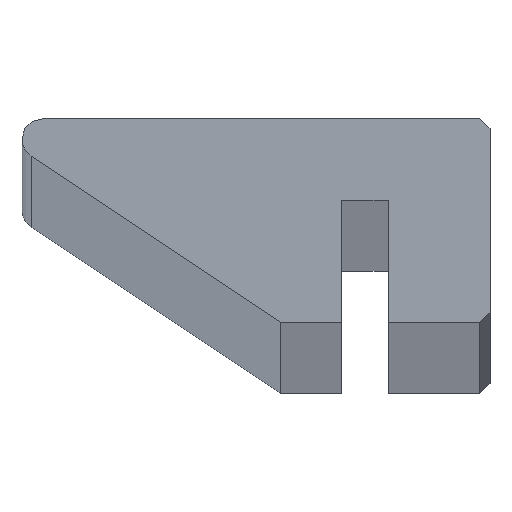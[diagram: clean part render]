
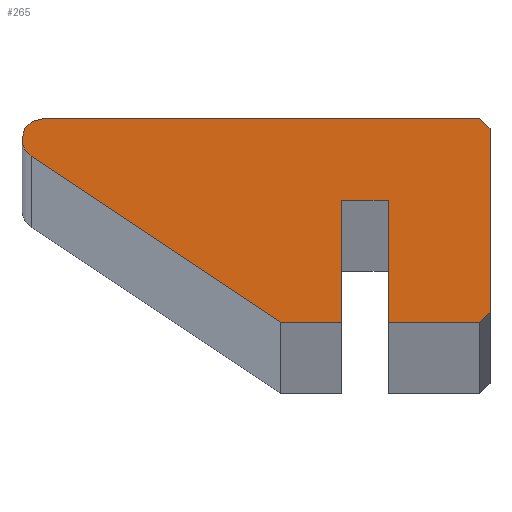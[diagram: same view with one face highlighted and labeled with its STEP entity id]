
A CAD part, top view. The second image highlights one B-rep face of the part: STEP entity #265.
In plain terms, the highlighted planar face has unit normal (0, 0, 1).
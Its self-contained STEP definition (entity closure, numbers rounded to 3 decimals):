
#5 = EDGE_CURVE ( 'NONE', #424, #30, #466, .T. ) ;
#7 = DIRECTION ( 'NONE',  ( 0., 0., 1. ) ) ;
#15 = CARTESIAN_POINT ( 'NONE',  ( -7.3, 6., 2000. ) ) ;
#21 = CARTESIAN_POINT ( 'NONE',  ( -22., 10., 2000. ) ) ;
#24 = DIRECTION ( 'NONE',  ( 0.707, 0.707, 0. ) ) ;
#25 = LINE ( 'NONE', #103, #82 ) ;
#30 = VERTEX_POINT ( 'NONE', #41 ) ;
#31 = EDGE_CURVE ( 'NONE', #106, #202, #469, .T. ) ;
#41 = CARTESIAN_POINT ( 'NONE',  ( -5., 0., 2000. ) ) ;
#54 = DIRECTION ( 'NONE',  ( 0., 0., 1. ) ) ;
#60 = FACE_OUTER_BOUND ( 'NONE', #277, .T. ) ;
#65 = VECTOR ( 'NONE', #95, 1000. ) ;
#66 = VECTOR ( 'NONE', #24, 1000. ) ;
#68 = DIRECTION ( 'NONE',  ( 0., 0., 1. ) ) ;
#69 = DIRECTION ( 'NONE',  ( 0., 1., 0. ) ) ;
#80 = EDGE_CURVE ( 'NONE', #165, #451, #146, .T. ) ;
#82 = VECTOR ( 'NONE', #220, 1000. ) ;
#95 = DIRECTION ( 'NONE',  ( 1., 0., 0. ) ) ;
#97 = VERTEX_POINT ( 'NONE', #374 ) ;
#101 = VERTEX_POINT ( 'NONE', #235 ) ;
#103 = CARTESIAN_POINT ( 'NONE',  ( -22.555, 8.168, 2000. ) ) ;
#106 = VERTEX_POINT ( 'NONE', #403 ) ;
#111 = EDGE_CURVE ( 'NONE', #213, #467, #407, .T. ) ;
#114 = CARTESIAN_POINT ( 'NONE',  ( 0., 10., 2000. ) ) ;
#117 = CIRCLE ( 'NONE', #185, 1. ) ;
#120 = CARTESIAN_POINT ( 'NONE',  ( -7.3, 6., 2000. ) ) ;
#123 = ORIENTED_EDGE ( 'NONE', *, *, #375, .T. ) ;
#140 = VECTOR ( 'NONE', #69, 1000. ) ;
#146 = LINE ( 'NONE', #434, #140 ) ;
#153 = CARTESIAN_POINT ( 'NONE',  ( 0., 9.5, 2000. ) ) ;
#165 = VERTEX_POINT ( 'NONE', #442 ) ;
#166 = CARTESIAN_POINT ( 'NONE',  ( -6.75, -6.25, 2000. ) ) ;
#170 = ORIENTED_EDGE ( 'NONE', *, *, #389, .T. ) ;
#185 = AXIS2_PLACEMENT_3D ( 'NONE', #344, #54, #415 ) ;
#194 = CARTESIAN_POINT ( 'NONE',  ( -10.75, 20.25, 2000. ) ) ;
#199 = VECTOR ( 'NONE', #379, 1000. ) ;
#202 = VERTEX_POINT ( 'NONE', #153 ) ;
#213 = VERTEX_POINT ( 'NONE', #260 ) ;
#220 = DIRECTION ( 'NONE',  ( 0.832, -0.555, 0. ) ) ;
#225 = AXIS2_PLACEMENT_3D ( 'NONE', #420, #68, #380 ) ;
#229 = LINE ( 'NONE', #194, #258 ) ;
#235 = CARTESIAN_POINT ( 'NONE',  ( -22.555, 8.168, 2000. ) ) ;
#240 = VECTOR ( 'NONE', #443, 1000. ) ;
#242 = ORIENTED_EDGE ( 'NONE', *, *, #426, .T. ) ;
#257 = VECTOR ( 'NONE', #361, 1000. ) ;
#258 = VECTOR ( 'NONE', #298, 1000. ) ;
#260 = CARTESIAN_POINT ( 'NONE',  ( -0.5, 10., 2000. ) ) ;
#264 = LINE ( 'NONE', #166, #66 ) ;
#265 = ADVANCED_FACE ( 'NONE', ( #60 ), #347, .T. ) ;
#268 = VERTEX_POINT ( 'NONE', #468 ) ;
#277 = EDGE_LOOP ( 'NONE', ( #306, #449, #285, #386, #123, #419, #170, #305, #313, #348, #421, #242 ) ) ;
#280 = EDGE_CURVE ( 'NONE', #101, #346, #25, .T. ) ;
#285 = ORIENTED_EDGE ( 'NONE', *, *, #111, .T. ) ;
#288 = EDGE_CURVE ( 'NONE', #30, #268, #464, .T. ) ;
#291 = CARTESIAN_POINT ( 'NONE',  ( -10.3, 0., 2000. ) ) ;
#298 = DIRECTION ( 'NONE',  ( -0.707, 0.707, 0. ) ) ;
#303 = CARTESIAN_POINT ( 'NONE',  ( -5., 6., 2000. ) ) ;
#305 = ORIENTED_EDGE ( 'NONE', *, *, #80, .T. ) ;
#306 = ORIENTED_EDGE ( 'NONE', *, *, #31, .T. ) ;
#313 = ORIENTED_EDGE ( 'NONE', *, *, #470, .T. ) ;
#329 = LINE ( 'NONE', #337, #240 ) ;
#337 = CARTESIAN_POINT ( 'NONE',  ( -10.3, 0., 2000. ) ) ;
#338 = VECTOR ( 'NONE', #429, 1000. ) ;
#339 = AXIS2_PLACEMENT_3D ( 'NONE', #405, #7, #372 ) ;
#344 = CARTESIAN_POINT ( 'NONE',  ( -22., 9., 2000. ) ) ;
#346 = VERTEX_POINT ( 'NONE', #291 ) ;
#347 = PLANE ( 'NONE',  #225 ) ;
#348 = ORIENTED_EDGE ( 'NONE', *, *, #5, .T. ) ;
#355 = CARTESIAN_POINT ( 'NONE',  ( 0., 0., 2000. ) ) ;
#361 = DIRECTION ( 'NONE',  ( 0., 1., 0. ) ) ;
#369 = EDGE_CURVE ( 'NONE', #202, #213, #229, .T. ) ;
#372 = DIRECTION ( 'NONE',  ( 1., 0., 0. ) ) ;
#374 = CARTESIAN_POINT ( 'NONE',  ( -23., 9., 2000. ) ) ;
#375 = EDGE_CURVE ( 'NONE', #97, #101, #455, .T. ) ;
#378 = VECTOR ( 'NONE', #406, 1000. ) ;
#379 = DIRECTION ( 'NONE',  ( 1., 0., 0. ) ) ;
#380 = DIRECTION ( 'NONE',  ( 1., 0., 0. ) ) ;
#386 = ORIENTED_EDGE ( 'NONE', *, *, #404, .T. ) ;
#389 = EDGE_CURVE ( 'NONE', #346, #165, #329, .T. ) ;
#399 = CARTESIAN_POINT ( 'NONE',  ( -5., 6., 2000. ) ) ;
#403 = CARTESIAN_POINT ( 'NONE',  ( 0., 0.5, 2000. ) ) ;
#404 = EDGE_CURVE ( 'NONE', #467, #97, #117, .T. ) ;
#405 = CARTESIAN_POINT ( 'NONE',  ( -22., 9., 2000. ) ) ;
#406 = DIRECTION ( 'NONE',  ( -1., 0., 0. ) ) ;
#407 = LINE ( 'NONE', #114, #378 ) ;
#415 = DIRECTION ( 'NONE',  ( 1., 0., 0. ) ) ;
#419 = ORIENTED_EDGE ( 'NONE', *, *, #280, .T. ) ;
#420 = CARTESIAN_POINT ( 'NONE',  ( -22., 9., 2000. ) ) ;
#421 = ORIENTED_EDGE ( 'NONE', *, *, #288, .T. ) ;
#424 = VERTEX_POINT ( 'NONE', #303 ) ;
#426 = EDGE_CURVE ( 'NONE', #268, #106, #264, .T. ) ;
#429 = DIRECTION ( 'NONE',  ( 0., -1., 0. ) ) ;
#434 = CARTESIAN_POINT ( 'NONE',  ( -7.3, 0., 2000. ) ) ;
#442 = CARTESIAN_POINT ( 'NONE',  ( -7.3, 0., 2000. ) ) ;
#443 = DIRECTION ( 'NONE',  ( 1., 0., 0. ) ) ;
#449 = ORIENTED_EDGE ( 'NONE', *, *, #369, .T. ) ;
#450 = LINE ( 'NONE', #120, #199 ) ;
#451 = VERTEX_POINT ( 'NONE', #15 ) ;
#453 = CARTESIAN_POINT ( 'NONE',  ( -5., 0., 2000. ) ) ;
#455 = CIRCLE ( 'NONE', #339, 1. ) ;
#464 = LINE ( 'NONE', #453, #65 ) ;
#466 = LINE ( 'NONE', #399, #338 ) ;
#467 = VERTEX_POINT ( 'NONE', #21 ) ;
#468 = CARTESIAN_POINT ( 'NONE',  ( -0.5, 0., 2000. ) ) ;
#469 = LINE ( 'NONE', #355, #257 ) ;
#470 = EDGE_CURVE ( 'NONE', #451, #424, #450, .T. ) ;
